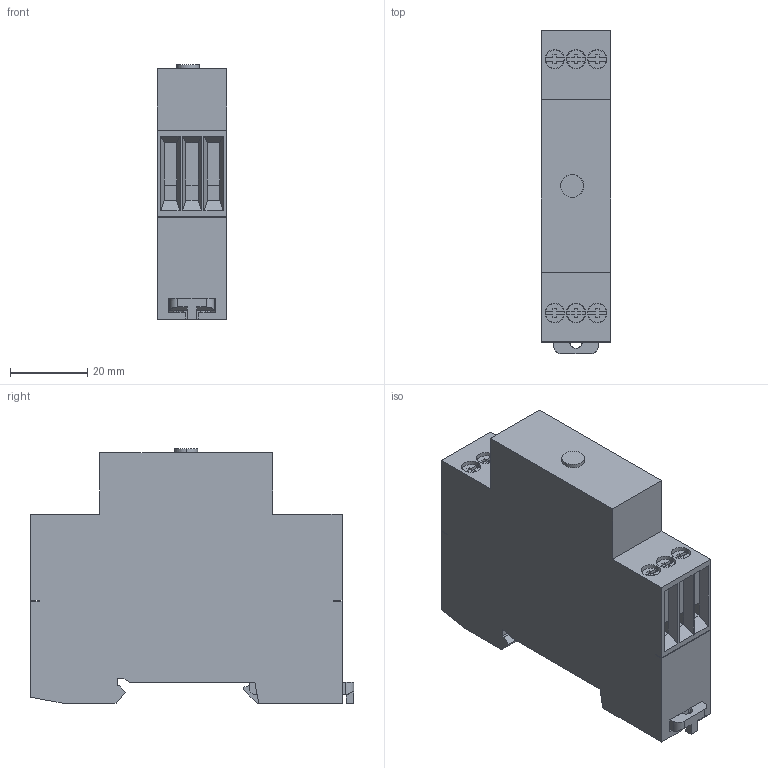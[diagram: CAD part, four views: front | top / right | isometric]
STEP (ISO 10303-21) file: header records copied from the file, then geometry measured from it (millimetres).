
FILE_DESCRIPTION((''),'2;1');
FILE_NAME('SB103128_3D-SIMPLIFIE_SW0001','2011-03-14T',('MCordero'),(''),'PRO/ENGINEER BY PARAMETRIC TECHNOLOGY CORPORATION, 2006170','PRO/ENGINEER BY PARAMETRIC TECHNOLOGY CORPORATION, 2006170','');
FILE_SCHEMA(('CONFIG_CONTROL_DESIGN'));
Length unit declared in the file: millimetre
Products named in the file (1): SB103128_3D-SIMPLIFIE_SW0001
Bounding box: 18 x 83.8 x 66 mm (x, y, z)
Volume: 78299.5 mm3; surface area: 17418.5 mm2
Topology: 1 solids, 1 shells, 277 faces, 743 edges, 486 vertices
Faces by surface type: plane 234, cylinder 43
Entity records: 8629 total; most frequent: CARTESIAN_POINT 1548, ORIENTED_EDGE 1486, DIRECTION 1411, EDGE_CURVE 743, VECTOR 625, LINE 625, VERTEX_POINT 486, AXIS2_PLACEMENT_3D 393
